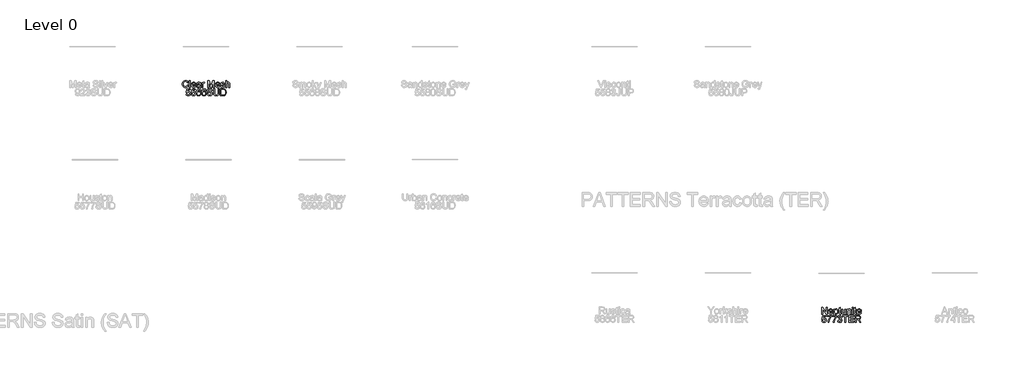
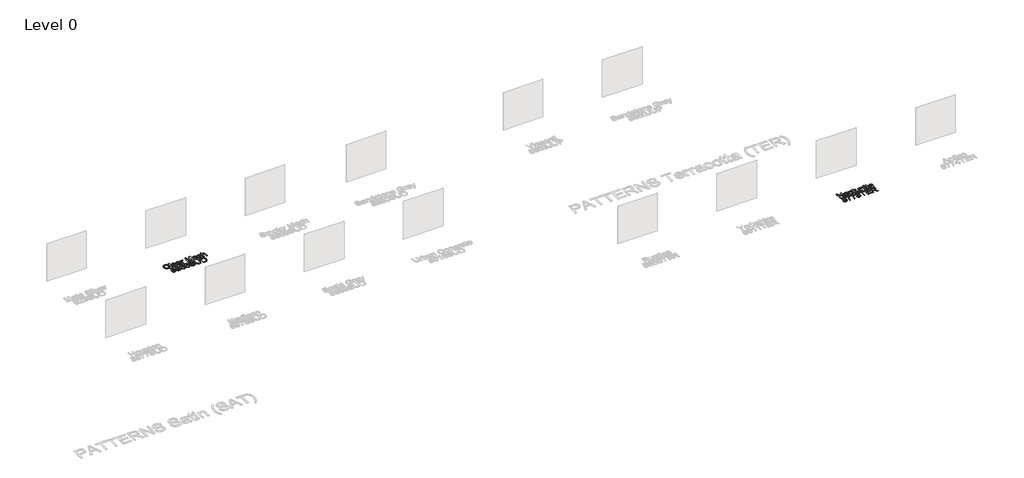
# One storey, part 18 of 29: 2 proxies.
"""IFC4 building model written with IfcOpenShell, lengths in millimetres."""

from ifc_helpers import new_model, si_unit, origin, origin_with_axes, place, context, project, spatial, polyline, outline, extrude, element, save

model = new_model("IFC4")

# Units and contexts
model_context = context("Model", 3, world=origin())
ifc_project = project(units=[si_unit("LENGTHUNIT", "METRE", prefix="MILLI")], contexts=[model_context])

# Site, building, storey
site = spatial("IfcSite", under=ifc_project)
building = spatial("IfcBuilding", under=site)
storey = spatial("IfcBuildingStorey", under=building, Name="Level 0", Elevation=0.0)

# Proxies
placement = place(None, origin())
element("IfcBuildingElementProxy", 1, Name="300mm Arial", ObjectType="300mm Arial", at=placement, inside=storey, context=model_context, shape_type="SweptSolid", body=[
    extrude(outline(polyline([(-272.3592807, -11905.733257), (-234.6881644, -11915.4453417), (-242.1423734, -11938.872527), (-252.0705887, -11959.3428607), (-264.4728105, -11976.856343), (-279.3490386, -11991.4129737), (-296.3635809, -12002.856403), (-315.180745, -12011.0302811), (-335.8005308, -12015.9346079), (-358.2229384, -12017.5693835), (-401.9181224, -12012.6213707), (-436.6185916, -11997.7773322), (-463.2164598, -11973.5523028), (-482.603841, -11940.4613173), (-494.4404442, -11901.5577963), (-498.3859786, -11859.8951604), (-493.9254094, -11815.9516561), (-480.5437018, -11778.0046283), (-458.9398316, -11747.2588905), (-429.8127747, -11724.9192564), (-395.2686553, -11711.3168196), (-357.413598, -11706.782674), (-316.109647, -11712.6503918), (-298.1409108, -11719.9850391), (-281.9610008, -11730.2535453), (-267.8366315, -11743.1845974), (-256.0345172, -11758.5068825), (-239.397054, -11796.3251516), (-277.0681703, -11805.3014723), (-290.1279811, -11777.8298843), (-307.9702579, -11758.9851291), (-330.8157298, -11748.086625), (-358.885126, -11744.4537903), (-391.2403475, -11748.4820981), (-417.8198216, -11760.5670217), (-437.988952, -11779.439368), (-451.1131422, -11803.8299443), (-458.3144322, -11831.4026999), (-460.7148623, -11859.821584), (-457.8729739, -11894.6232207), (-449.3473086, -11924.7159679), (-434.8159698, -11948.9501944), (-413.9570607, -11966.1762688), (-388.9502821, -11976.4677676), (-361.9753348, -11979.8982672), (-330.5306212, -11975.2261659), (-304.3282261, -11961.2098619), (-284.5453718, -11937.996508), (-272.3592807, -11905.733257)])), origin_with_axes(), (0.0, 0.0, 1.0), 10.0),
    extrude(outline(polyline([(-187.599269, -12012.860494), (-187.599269, -11711.4915635), (-149.9281527, -11711.4915635), (-149.9281527, -12012.860494), (-187.599269, -12012.860494)])), origin_with_axes(), (0.0, 0.0, 1.0), 10.0),
    extrude(outline(polyline([(61.5304181, -11946.9360404), (98.4657704, -11951.64493), (85.1576392, -11979.4752029), (63.9216511, -12000.2789297), (35.2360525, -12013.2467701), (-0.4209099, -12017.5693835), (-23.7952122, -12015.7046817), (-44.6219316, -12010.1105761), (-62.9010683, -12000.7870668), (-78.6326221, -11987.7341537), (-91.2831642, -11971.3151204), (-100.3192657, -11951.8932503), (-105.7409266, -11929.4685435), (-107.5481469, -11904.0409998), (-105.7225325, -11877.7512327), (-100.2456893, -11854.5792656), (-91.1176173, -11834.5250983), (-78.3383165, -11817.5887309), (-62.6481494, -11804.133447), (-44.7874785, -11794.5225298), (-24.7563039, -11788.7559796), (-2.5546255, -11786.8337961), (18.9319823, -11788.751381), (38.3630494, -11794.5041357), (55.7385759, -11804.0920602), (71.0585618, -11817.5151545), (83.5642503, -11834.4147337), (92.496885, -11854.4321128), (97.8564658, -11877.5672917), (99.6429928, -11903.8202706), (99.4222636, -11913.9738137), (-69.8770306, -11913.9738137), (-63.3563222, -11942.1719686), (-48.2087811, -11962.902119), (-26.3473935, -11975.6492302), (0.3148541, -11979.8982672), (20.3644228, -11977.9300985), (37.2502064, -11972.0255925), (50.9722048, -11961.8168672), (61.5304181, -11946.9360404)]), holes=[polyline([(-69.8770306, -11876.3026974), (61.9718765, -11876.3026974), (56.8767108, -11856.4002814), (46.8887147, -11842.1632482), (24.9261596, -11828.9194964), (-2.7017783, -11824.5049125), (-28.094833, -11828.0273826), (-49.0916979, -11838.5947929), (-63.687416, -11855.0667092), (-69.8770306, -11876.3026974)])]), origin_with_axes(), (0.0, 0.0, 1.0), 10.0),
    extrude(outline(polyline([(278.5807952, -11984.6071568), (260.5821686, -12000.0398064), (242.0501131, -12010.1381672), (222.5615644, -12015.7115794), (201.6934583, -12017.5693835), (170.2119565, -12013.0996173), (146.9894056, -11999.6903186), (132.6695989, -11979.3280501), (127.89633, -11953.9993748), (129.6989518, -11938.3827841), (135.1068171, -11924.2009331), (143.4485414, -11912.0608273), (154.0527399, -11902.5694718), (180.4298789, -11890.2086368), (213.0242237, -11884.5432541), (251.5414686, -11878.5835657), (278.360066, -11871.5938078), (278.5807952, -11863.2060983), (275.9872272, -11846.3938912), (268.206523, -11835.3942195), (250.8057046, -11827.2272392), (226.5622811, -11824.5049125), (204.1214794, -11826.3167313), (188.4497064, -11831.7521878), (177.7627345, -11841.8045633), (170.2763359, -11857.4671392), (132.6052196, -11852.7582497), (139.144322, -11832.156858), (148.9023919, -11815.9700502), (162.7899373, -11803.590821), (181.7174659, -11794.4121652), (204.8664405, -11788.7283884), (231.4183235, -11786.8337961), (256.8849546, -11788.5076592), (277.0724791, -11793.5292485), (292.2935966, -11801.0800264), (302.8610069, -11810.3414556), (309.8691589, -11821.7917827), (314.4125016, -11835.9092543), (316.2519115, -11868.8714811), (316.2519115, -11915.7396473), (318.1648979, -11981.1858542), (325.6696906, -12012.860494), (287.9985743, -12012.860494), (278.5807952, -11984.6071568)]), holes=[polyline([(278.5807952, -11909.2649241), (217.8066896, -11920.8164188), (185.3962859, -11926.9232599), (170.7177943, -11936.8560738), (165.5674463, -11951.3506244), (168.3725465, -11962.5526311), (176.7878472, -11971.7312869), (190.6294072, -11977.8565221), (209.7132857, -11979.8982672), (229.9467955, -11977.64499), (247.8258604, -11970.8851583), (262.3204111, -11960.9247533), (272.4003777, -11949.069756), (276.870144, -11936.8560738), (278.360066, -11919.933502), (278.5807952, -11909.2649241)])]), origin_with_axes(), (0.0, 0.0, 1.0), 10.0),
    extrude(outline(polyline([(368.0496965, -12012.860494), (368.0496965, -11791.5426857), (401.0119232, -11791.5426857), (401.0119232, -11824.2841833), (413.1888173, -11805.3014723), (424.4092181, -11794.1178596), (435.6664072, -11788.654812), (447.9536658, -11786.8337961), (466.7156476, -11789.7400639), (485.7719349, -11798.4588672), (473.1903707, -11832.2304343), (459.9466189, -11826.4362929), (446.702867, -11824.5049125), (435.454875, -11826.3627165), (425.4024995, -11831.9361288), (417.2815045, -11840.8020848), (411.8276539, -11852.5375205), (407.2475231, -11873.5803706), (405.7208128, -11896.5362071), (405.7208128, -12012.860494), (368.0496965, -12012.860494)])), origin_with_axes(), (0.0, 0.0, 1.0), 10.0),
    extrude(outline(polyline([(631.7475106, -12012.860494), (631.7475106, -11711.4915635), (696.5683182, -11711.4915635), (758.2253406, -11923.9066275), (770.659752, -11968.2731962), (784.124233, -11920.2278076), (844.7511858, -11711.4915635), (909.5719934, -11711.4915635), (909.5719934, -12012.860494), (871.9008771, -12012.860494), (871.9008771, -11749.1626798), (796.1907625, -12012.860494), (745.1287415, -12012.860494), (669.4186269, -11749.1626798), (669.4186269, -12012.860494), (631.7475106, -12012.860494)])), origin_with_axes(), (0.0, 0.0, 1.0), 10.0),
    extrude(outline(polyline([(1125.7394537, -11946.9360404), (1162.6748061, -11951.64493), (1149.3666749, -11979.4752029), (1128.1306867, -12000.2789297), (1099.4450881, -12013.2467701), (1063.7881257, -12017.5693835), (1040.4138235, -12015.7046817), (1019.587104, -12010.1105761), (1001.3079674, -12000.7870668), (985.5764136, -11987.7341537), (972.9258715, -11971.3151204), (963.88977, -11951.8932503), (958.4681091, -11929.4685435), (956.6608888, -11904.0409998), (958.4865032, -11877.7512327), (963.9633464, -11854.5792656), (973.0914184, -11834.5250983), (985.8707192, -11817.5887309), (1001.5608863, -11804.133447), (1019.4215571, -11794.5225298), (1039.4527318, -11788.7559796), (1061.6544102, -11786.8337961), (1083.141018, -11788.751381), (1102.5720851, -11794.5041357), (1119.9476116, -11804.0920602), (1135.2675974, -11817.5151545), (1147.773286, -11834.4147337), (1156.7059207, -11854.4321128), (1162.0655015, -11877.5672917), (1163.8520284, -11903.8202706), (1163.6312992, -11913.9738137), (994.3320051, -11913.9738137), (1000.8527134, -11942.1719686), (1016.0002546, -11962.902119), (1037.8616421, -11975.6492302), (1064.5238897, -11979.8982672), (1084.5734585, -11977.9300985), (1101.4592421, -11972.0255925), (1115.1812405, -11961.8168672), (1125.7394537, -11946.9360404)]), holes=[polyline([(994.3320051, -11876.3026974), (1126.1809121, -11876.3026974), (1121.0857465, -11856.4002814), (1111.0977503, -11842.1632482), (1089.1351952, -11828.9194964), (1061.5072574, -11824.5049125), (1036.1142027, -11828.0273826), (1015.1173378, -11838.5947929), (1000.5216196, -11855.0667092), (994.3320051, -11876.3026974)])]), origin_with_axes(), (0.0, 0.0, 1.0), 10.0),
    extrude(outline(polyline([(1187.3964761, -11946.9360404), (1225.0675924, -11942.2271509), (1231.0088867, -11958.3403823), (1242.505199, -11970.1861825), (1259.6301059, -11977.470246), (1282.4571837, -11979.8982672), (1305.00835, -11977.6725811), (1320.864064, -11970.9955229), (1330.2450549, -11961.3202265), (1333.3720518, -11950.0998256), (1330.2266608, -11940.4981055), (1320.7904876, -11933.1772538), (1282.0157253, -11922.4350996), (1225.2883216, -11904.0042116), (1210.9317268, -11894.7427824), (1200.5298634, -11882.4831149), (1194.2114901, -11868.0069584), (1192.1053657, -11852.0960621), (1193.7976228, -11837.5003439), (1198.8743944, -11824.0266659), (1206.8758278, -11812.2084568), (1217.3420705, -11802.5791455), (1241.2911884, -11791.4323211), (1273.7015922, -11786.8337961), (1298.2209272, -11788.6824032), (1319.5396888, -11794.2282242), (1336.6829898, -11802.9286334), (1348.6759428, -11814.2410048), (1356.6221939, -11829.0022698), (1361.625389, -11848.0493601), (1323.9542727, -11852.7582497), (1319.1993979, -11840.9032524), (1309.7908159, -11831.972917), (1295.6365562, -11826.3719136), (1276.6446482, -11824.5049125), (1255.0131868, -11826.2891401), (1240.5922126, -11831.6418232), (1232.4804146, -11839.3673451), (1229.776482, -11848.2700893), (1234.2646423, -11859.2329728), (1248.3177345, -11867.5471059), (1280.7649265, -11875.5669334), (1336.0575904, -11893.2988455), (1350.6625056, -11901.7785255), (1361.7357536, -11913.3852025), (1368.7163145, -11928.1556646), (1371.0431681, -11946.1267001), (1368.3116443, -11964.7047408), (1360.1170729, -11982.1791356), (1346.7721535, -11997.1795239), (1328.5895859, -12008.3355454), (1306.6270308, -12015.260924), (1281.9421489, -12017.5693835), (1243.9583329, -12013.1180114), (1216.2384245, -11999.763895), (1197.7339602, -11977.654187), (1187.3964761, -11946.9360404)])), origin_with_axes(), (0.0, 0.0, 1.0), 10.0),
    extrude(outline(polyline([(1413.423174, -12012.860494), (1413.423174, -11711.4915635), (1451.0942903, -11711.4915635), (1451.0942903, -11822.2976205), (1464.9312518, -11806.7821973), (1480.4696676, -11795.6997522), (1497.7095376, -11789.0502852), (1516.6508618, -11786.8337961), (1539.4043632, -11789.2526203), (1558.9572913, -11796.5090926), (1574.3531528, -11808.0329961), (1584.6354545, -11823.2541137), (1590.4295959, -11844.1682051), (1592.3609764, -11872.7710302), (1592.3609764, -12012.860494), (1554.6898601, -12012.860494), (1554.6898601, -11876.6705794), (1551.6916219, -11853.0893435), (1542.6969071, -11836.9393239), (1528.2023565, -11827.6135153), (1508.7046107, -11824.5049125), (1492.7845174, -11826.6018398), (1477.8393113, -11832.8926219), (1465.4600822, -11842.7702535), (1457.2379196, -11855.6277292), (1452.6301976, -11872.7158479), (1451.0942903, -11895.2854083), (1451.0942903, -12012.860494), (1413.423174, -12012.860494)])), origin_with_axes(), (0.0, 0.0, 1.0), 10.0),
    extrude(outline(polyline([(-333.5748447, -12298.7338254), (-295.9037284, -12294.0249358), (-288.9875469, -12316.6404815), (-276.9210175, -12332.8364863), (-259.7593224, -12342.5761621), (-237.557644, -12345.8227207), (-210.5551055, -12341.3069693), (-190.3215958, -12327.7597148), (-177.6848493, -12306.7444558), (-173.4726004, -12279.8246908), (-177.4181348, -12254.4776213), (-189.254738, -12235.0902402), (-209.0743805, -12222.7845875), (-236.9690328, -12218.6827032), (-255.2435709, -12220.3197781), (-270.0416242, -12225.2310027), (-291.1948389, -12242.2271509), (-328.8659552, -12237.5182614), (-295.9037284, -12082.1249066), (-149.9281527, -12082.1249066), (-149.9281527, -12119.7960229), (-265.4430992, -12119.7960229), (-281.5563306, -12202.790201), (-254.6457627, -12186.4562404), (-226.4476077, -12181.0115869), (-208.1017925, -12182.6992456), (-191.2504978, -12187.7622215), (-175.8937238, -12196.2005148), (-162.0314704, -12208.0141254), (-150.5558514, -12222.4810848), (-142.3589807, -12238.8794248), (-137.4408583, -12257.2091452), (-135.8014841, -12277.470246), (-141.7059901, -12315.1413624), (-149.0866227, -12331.9351754), (-159.4195082, -12347.3678251), (-175.0728871, -12363.1729553), (-193.3382282, -12374.4623341), (-214.2155314, -12381.2359613), (-237.7047968, -12383.4938371), (-274.7045285, -12377.6904986), (-290.3831992, -12370.4363255), (-304.1810733, -12360.2804832), (-315.6612908, -12347.7288093), (-324.3869919, -12333.2871418), (-333.5748447, -12298.7338254)])), origin_with_axes(), (0.0, 0.0, 1.0), 10.0),
    extrude(outline(polyline([(-102.8392574, -12298.7338254), (-65.1681411, -12294.0249358), (-58.2519595, -12316.6404815), (-46.1854301, -12332.8364863), (-29.023735, -12342.5761621), (-6.8220566, -12345.8227207), (20.1804818, -12341.3069693), (40.4139916, -12327.7597148), (53.0507381, -12306.7444558), (57.2629869, -12279.8246908), (53.3174525, -12254.4776213), (41.4808494, -12235.0902402), (21.6612069, -12222.7845875), (-6.2334454, -12218.6827032), (-24.5079835, -12220.3197781), (-39.3060368, -12225.2310027), (-60.4592515, -12242.2271509), (-98.1303678, -12237.5182614), (-65.1681411, -12082.1249066), (80.8074346, -12082.1249066), (80.8074346, -12119.7960229), (-34.7075119, -12119.7960229), (-50.8207432, -12202.790201), (-23.9101753, -12186.4562404), (4.2879796, -12181.0115869), (22.6337949, -12182.6992456), (39.4850895, -12187.7622215), (54.8418636, -12196.2005148), (68.704117, -12208.0141254), (80.179736, -12222.4810848), (88.3766067, -12238.8794248), (93.2947291, -12257.2091452), (94.9341033, -12277.470246), (89.0295972, -12315.1413624), (81.6489647, -12331.9351754), (71.3160792, -12347.3678251), (55.6627003, -12363.1729553), (37.3973592, -12374.4623341), (16.520056, -12381.2359613), (-6.9692094, -12383.4938371), (-43.9689411, -12377.6904986), (-59.6476119, -12370.4363255), (-73.4454859, -12360.2804832), (-84.9257035, -12347.7288093), (-93.6514045, -12333.2871418), (-102.8392574, -12298.7338254)])), origin_with_axes(), (0.0, 0.0, 1.0), 10.0),
    extrude(outline(polyline([(320.9608011, -12157.4671392), (283.2896848, -12162.1760288), (277.2196319, -12143.5060175), (269.0158634, -12130.7589064), (251.9277447, -12119.0050766), (231.2711707, -12115.0871334), (213.7599877, -12117.3680017), (197.2788743, -12124.2106069), (183.1246145, -12138.622384), (171.5639228, -12158.4604206), (163.7556275, -12186.5206198), (160.8585568, -12225.5988847), (175.9693097, -12207.9681401), (194.078301, -12195.5429257), (214.1738549, -12188.1760888), (235.2442962, -12185.7204764), (253.3440904, -12187.3989381), (270.045933, -12192.4343229), (285.349824, -12200.8266309), (299.2557634, -12212.5758621), (310.8118565, -12226.9830407), (319.0662088, -12243.349191), (324.0188202, -12261.6743129), (325.6696906, -12281.9584064), (322.5610878, -12308.9333537), (313.2352792, -12333.9401323), (298.4648171, -12355.1485293), (279.0222536, -12370.7283318), (255.7905056, -12380.3024607), (229.6524899, -12383.4938371), (207.1955933, -12381.3785156), (186.9137991, -12375.0325512), (168.8071071, -12364.4559438), (152.8755175, -12349.6486935), (139.8869838, -12329.9854009), (130.6094597, -12304.8406665), (125.0429453, -12274.2144904), (123.1874405, -12238.1068726), (125.2475797, -12197.6260575), (131.4279972, -12163.0773396), (141.728693, -12134.4607189), (156.1496672, -12111.7761954), (171.7800535, -12096.7436174), (189.9028403, -12086.0060617), (210.5180276, -12079.5635282), (233.6256154, -12077.4160171), (266.6798127, -12082.7319119), (293.1489223, -12098.6795964), (311.6901748, -12124.0082718), (320.9608011, -12157.4671392)]), holes=[polyline([(160.8585568, -12281.3697952), (163.0382576, -12298.0624407), (169.5773601, -12314.0009282), (179.7309031, -12327.7045325), (192.7539258, -12337.6925287), (208.471684, -12343.7901727), (226.7094339, -12345.8227207), (251.5690597, -12341.6104719), (271.1127907, -12328.9737254), (283.7771284, -12309.1080976), (287.9985743, -12283.2092052), (283.8323107, -12258.3495793), (271.3335199, -12239.3944595), (251.4586951, -12227.3923095), (225.1643295, -12223.3915928), (200.3414919, -12227.3923095), (179.5837503, -12239.3944595), (165.5398552, -12257.8897269), (160.8585568, -12281.3697952)])]), origin_with_axes(), (0.0, 0.0, 1.0), 10.0),
    extrude(outline(polyline([(551.6963885, -12157.4671392), (514.0252722, -12162.1760288), (507.9552192, -12143.5060175), (499.7514507, -12130.7589064), (482.6633321, -12119.0050766), (462.006758, -12115.0871334), (444.4955751, -12117.3680017), (428.0144617, -12124.2106069), (413.8602019, -12138.622384), (402.2995102, -12158.4604206), (394.4912149, -12186.5206198), (391.5941442, -12225.5988847), (406.7048971, -12207.9681401), (424.8138883, -12195.5429257), (444.9094423, -12188.1760888), (465.9798836, -12185.7204764), (484.0796777, -12187.3989381), (500.7815203, -12192.4343229), (516.0854113, -12200.8266309), (529.9913507, -12212.5758621), (541.5474439, -12226.9830407), (549.8017962, -12243.349191), (554.7544075, -12261.6743129), (556.405278, -12281.9584064), (553.2966751, -12308.9333537), (543.9708666, -12333.9401323), (529.2004045, -12355.1485293), (509.757841, -12370.7283318), (486.526093, -12380.3024607), (460.3880773, -12383.4938371), (437.9311807, -12381.3785156), (417.6493865, -12375.0325512), (399.5426945, -12364.4559438), (383.6111049, -12349.6486935), (370.6225712, -12329.9854009), (361.3450471, -12304.8406665), (355.7785327, -12274.2144904), (353.9230279, -12238.1068726), (355.983167, -12197.6260575), (362.1635845, -12163.0773396), (372.4642804, -12134.4607189), (386.8852546, -12111.7761954), (402.5156409, -12096.7436174), (420.6384277, -12086.0060617), (441.253615, -12079.5635282), (464.3612028, -12077.4160171), (497.4154001, -12082.7319119), (523.8845096, -12098.6795964), (542.4257622, -12124.0082718), (551.6963885, -12157.4671392)]), holes=[polyline([(391.5941442, -12281.3697952), (393.773845, -12298.0624407), (400.3129474, -12314.0009282), (410.4664905, -12327.7045325), (423.4895131, -12337.6925287), (439.2072714, -12343.7901727), (457.4450213, -12345.8227207), (482.3046471, -12341.6104719), (501.8483781, -12328.9737254), (514.5127158, -12309.1080976), (518.7341617, -12283.2092052), (514.5678981, -12258.3495793), (502.0691073, -12239.3944595), (482.1942825, -12227.3923095), (455.8999169, -12223.3915928), (431.0770793, -12227.3923095), (410.3193377, -12239.3944595), (396.2754425, -12257.8897269), (391.5941442, -12281.3697952)])]), origin_with_axes(), (0.0, 0.0, 1.0), 10.0),
    extrude(outline(polyline([(589.3675048, -12275.1893777), (627.0386211, -12275.1893777), (631.3612345, -12296.0942721), (639.1787269, -12312.8972822), (651.3740151, -12326.2330045), (668.8300157, -12336.7360355), (690.1671714, -12343.5510494), (714.0059247, -12345.8227207), (734.9935926, -12344.1028724), (753.3692982, -12338.9433274), (768.259322, -12330.7763471), (778.7899441, -12320.0341929), (785.0531351, -12307.700949), (787.1408654, -12294.7606998), (785.5773669, -12282.1515444), (780.8868715, -12271.2530403), (771.3587278, -12261.9548229), (755.2822846, -12254.1465276), (700.4310791, -12239.7623415), (664.4246288, -12230.2433949), (641.3860189, -12221.1843008), (622.6332342, -12208.510766), (609.3434971, -12193.1516928), (601.4248372, -12175.4381747), (598.7852838, -12155.7013056), (602.0502366, -12133.637583), (611.8450947, -12113.0637824), (627.9123408, -12095.6261758), (649.9944576, -12082.9710352), (676.5003553, -12075.2731044), (705.8389444, -12072.7071275), (737.6239488, -12075.3926661), (765.4358277, -12083.4492818), (788.2812996, -12096.7114277), (805.1670831, -12115.013557), (815.8540551, -12137.2152354), (820.1030921, -12162.1760288), (782.4319758, -12162.1760288), (775.5157943, -12139.6984389), (761.0948201, -12123.4748429), (738.5620479, -12113.6523936), (707.3104724, -12110.3782438), (675.3231329, -12113.6156054), (653.3789719, -12123.3276901), (640.6870431, -12137.6199056), (636.4564002, -12154.5976597), (639.4546384, -12169.0738162), (648.4493532, -12180.7172813), (669.7129325, -12191.1283418), (709.9592228, -12201.7601314), (751.4931, -12211.8584922), (776.6194403, -12220.669266), (798.0945518, -12234.3360821), (813.076546, -12251.2034716), (821.8781228, -12271.0874934), (824.8119817, -12293.8042066), (821.4366644, -12317.0267576), (811.3107125, -12338.869751), (794.8479932, -12357.668521), (772.4623738, -12371.7584014), (745.5426088, -12380.5599781), (715.4774527, -12383.4938371), (678.5696915, -12380.3300519), (648.1918358, -12370.8386964), (623.9943976, -12354.9829824), (605.627889, -12332.7261217), (593.837271, -12305.6132187), (589.3675048, -12275.1893777)])), origin_with_axes(), (0.0, 0.0, 1.0), 10.0),
    extrude(outline(polyline([(1079.0920167, -12077.4160171), (1116.7631331, -12077.4160171), (1116.7631331, -12251.277048), (1114.2063532, -12291.9923878), (1106.5360136, -12323.3451308), (1092.2070099, -12347.533372), (1069.6742377, -12366.7552063), (1038.8825147, -12379.3091794), (999.7766586, -12383.4938371), (961.5261281, -12379.8518053), (930.9459373, -12368.92571), (908.026889, -12351.0926303), (892.7597862, -12326.7296452), (884.1789387, -12294.052527), (881.3186561, -12251.277048), (881.3186561, -12077.4160171), (918.9897724, -12077.4160171), (918.9897724, -12249.9526728), (920.8475765, -12283.8070134), (926.4209887, -12307.3790523), (936.5193495, -12323.7038158), (951.9519992, -12335.8163305), (972.0751444, -12343.3211232), (996.2449914, -12345.8227207), (1034.5599012, -12340.8747079), (1048.9027005, -12334.6896919), (1060.0357294, -12326.0306694), (1068.3728551, -12313.8537754), (1074.3279449, -12297.1151446), (1079.0920167, -12249.9526728), (1079.0920167, -12077.4160171)])), origin_with_axes(), (0.0, 0.0, 1.0), 10.0),
    extrude(outline(polyline([(1182.6875866, -12378.7849475), (1182.6875866, -12077.4160171), (1286.6510384, -12077.4160171), (1340.4353861, -12081.7570246), (1364.4580804, -12090.12634), (1384.7283783, -12103.3149095), (1405.5688934, -12126.270746), (1420.4129319, -12154.8183889), (1429.2972821, -12188.406015), (1432.2587321, -12226.4818015), (1430.2537752, -12258.8278259), (1424.2389046, -12287.2926953), (1415.0786429, -12311.5269217), (1403.6375129, -12331.1810173), (1390.4673375, -12346.6964405), (1376.1199397, -12358.5146496), (1359.6480233, -12367.2794381), (1340.1042923, -12373.6345996), (1291.6542336, -12378.7849475), (1182.6875866, -12378.7849475)]), holes=[polyline([(1220.3587029, -12341.1138312), (1287.0189204, -12341.1138312), (1314.591676, -12339.7526678), (1335.5057674, -12335.6691777), (1351.287905, -12329.1024841), (1363.464799, -12320.2917103), (1376.552201, -12303.9853408), (1386.3838473, -12282.8781114), (1392.5366737, -12256.8780514), (1394.5876158, -12225.8931903), (1390.568505, -12184.8375597), (1378.5111726, -12154.5240833), (1360.696487, -12133.7019623), (1339.4053165, -12121.1203981), (1317.737067, -12116.5954496), (1285.9888508, -12115.0871334), (1220.3587029, -12115.0871334), (1220.3587029, -12341.1138312)])]), origin_with_axes(), (0.0, 0.0, 1.0), 10.0),
])
element("IfcBuildingElementProxy", 2, Name="300mm Arial", ObjectType="300mm Arial", at=placement, inside=storey, context=model_context, shape_type="SweptSolid", body=[
    extrude(outline(polyline([(27689.969603, -22018.860494), (27689.969603, -21717.4915635), (27730.2894696, -21717.4915635), (27887.7429636, -21956.2469784), (27887.7429636, -21717.4915635), (27925.4140799, -21717.4915635), (27925.4140799, -22018.860494), (27885.0942132, -22018.860494), (27727.6407193, -21780.0315027), (27727.6407193, -22018.860494), (27689.969603, -22018.860494)])), origin_with_axes(), (0.0, 0.0, 1.0), 10.0),
    extrude(outline(polyline([(28141.5815402, -21952.9360404), (28178.5168926, -21957.64493), (28165.2087614, -21985.4752029), (28143.9727732, -22006.2789297), (28115.2871746, -22019.2467701), (28079.6302123, -22023.5693835), (28056.25591, -22021.7046817), (28035.4291905, -22016.1105761), (28017.1500539, -22006.7870668), (28001.4185001, -21993.7341537), (27988.767958, -21977.3151204), (27979.7318565, -21957.8932503), (27974.3101956, -21935.4685435), (27972.5029753, -21910.0409998), (27974.3285897, -21883.7512327), (27979.8054329, -21860.5792656), (27988.9335049, -21840.5250983), (28001.7128057, -21823.5887309), (28017.4029728, -21810.133447), (28035.2636436, -21800.5225298), (28055.2948183, -21794.7559796), (28077.4964967, -21792.8337961), (28098.9831045, -21794.751381), (28118.4141716, -21800.5041357), (28135.7896981, -21810.0920602), (28151.1096839, -21823.5151545), (28163.6153725, -21840.4147337), (28172.5480072, -21860.4321128), (28177.907588, -21883.5672917), (28179.6941149, -21909.8202706), (28179.4733857, -21919.9738137), (28010.1740916, -21919.9738137), (28016.6947999, -21948.1719686), (28031.8423411, -21968.902119), (28053.7037286, -21981.6492302), (28080.3659762, -21985.8982672), (28100.415545, -21983.9300985), (28117.3013286, -21978.0255925), (28131.023327, -21967.8168672), (28141.5815402, -21952.9360404)]), holes=[polyline([(28010.1740916, -21882.3026974), (28142.0229986, -21882.3026974), (28136.927833, -21862.4002814), (28126.9398368, -21848.1632482), (28104.9772817, -21834.9194964), (28077.3493439, -21830.5049125), (28051.9562892, -21834.0273826), (28030.9594243, -21844.5947929), (28016.3637061, -21861.0667092), (28010.1740916, -21882.3026974)])]), origin_with_axes(), (0.0, 0.0, 1.0), 10.0),
    extrude(outline(polyline([(28217.3652312, -22103.6205057), (28217.3652312, -21797.5426857), (28255.0363476, -21797.5426857), (28255.0363476, -21834.478038), (28267.3236062, -21816.2586822), (28281.0823928, -21803.2448566), (28297.1220478, -21795.4365613), (28316.2519115, -21792.8337961), (28341.7277397, -21796.4758279), (28364.0029945, -21807.4019232), (28382.1395769, -21824.9498943), (28395.1993877, -21848.4575538), (28403.0904565, -21876.2142504), (28405.7208128, -21906.5093327), (28402.7501657, -21938.7265984), (28393.8382243, -21967.5409557), (28379.2700973, -21991.4900735), (28359.3308932, -22009.1116211), (28336.1083422, -22019.9549429), (28311.6901748, -22023.5693835), (28294.3721299, -22021.1505594), (28278.911889, -22013.894087), (28265.6773343, -22002.9404006), (28255.0363476, -21989.4299344), (28255.0363476, -22103.6205057), (28217.3652312, -22103.6205057)]), holes=[polyline([(28255.0363476, -21909.9674234), (28259.1106406, -21943.7389906), (28271.3335199, -21967.3570147), (28289.3689348, -21981.2629541), (28310.8808344, -21985.8982672), (28332.742222, -21981.0974072), (28351.2374893, -21966.6948271), (28363.8466447, -21942.2122803), (28368.0496965, -21907.1715202), (28363.9478122, -21873.5838941), (28351.6421595, -21849.6347762), (28333.6343358, -21835.2873784), (28312.4259388, -21830.5049125), (28291.1347683, -21835.590881), (28272.4371659, -21850.8487868), (28259.3865521, -21875.8003831), (28255.0363476, -21909.9674234)])]), origin_with_axes(), (0.0, 0.0, 1.0), 10.0),
    extrude(outline(polyline([(28528.1519408, -21987.4433716), (28532.8608303, -22019.96414), (28504.6810695, -22023.5693835), (28486.5996694, -22022.005885), (28473.1167943, -22017.3153896), (28463.5886506, -22010.0865084), (28457.3714449, -22000.9078526), (28453.9501423, -21985.1441091), (28452.8097082, -21958.1599648), (28452.8097082, -21835.213802), (28424.5563709, -21835.213802), (28424.5563709, -21797.5426857), (28452.8097082, -21797.5426857), (28452.8097082, -21743.758338), (28490.4808245, -21721.6118419), (28490.4808245, -21797.5426857), (28528.1519408, -21797.5426857), (28528.1519408, -21835.213802), (28490.4808245, -21835.213802), (28490.4808245, -21957.0563188), (28492.4673872, -21976.4804881), (28498.9053222, -21983.3598814), (28511.7444038, -21985.8982672), (28528.1519408, -21987.4433716)])), origin_with_axes(), (0.0, 0.0, 1.0), 10.0),
    extrude(outline(polyline([(28707.0897432, -22018.860494), (28707.0897432, -21980.8214957), (28693.4597153, -21999.5236966), (28677.5856072, -22012.8824116), (28659.4674189, -22020.8976405), (28639.1051505, -22023.5693835), (28620.757036, -22021.6931853), (28603.6781144, -22016.0645908), (28589.3491107, -22007.6033049), (28579.2507499, -21997.2290327), (28568.030349, -21969.4907302), (28565.8230571, -21934.4683643), (28565.8230571, -21797.5426857), (28603.4941734, -21797.5426857), (28603.4941734, -21916.7364521), (28605.7750418, -21955.1433324), (28611.2656805, -21967.9548229), (28620.6742626, -21977.6944987), (28633.3753884, -21983.8473251), (28648.7436588, -21985.8982672), (28664.9948459, -21983.8013398), (28680.1975694, -21977.5105577), (28692.7331484, -21967.605335), (28700.9829021, -21954.6650858), (28705.5630329, -21936.9423707), (28707.0897432, -21912.6897502), (28707.0897432, -21797.5426857), (28744.7608595, -21797.5426857), (28744.7608595, -22018.860494), (28707.0897432, -22018.860494)])), origin_with_axes(), (0.0, 0.0, 1.0), 10.0),
    extrude(outline(polyline([(28796.5586445, -22018.860494), (28796.5586445, -21797.5426857), (28834.2297608, -21797.5426857), (28834.2297608, -21828.4447733), (28847.3171627, -21812.8649708), (28863.034921, -21801.7365404), (28881.3830355, -21795.0594822), (28902.3615063, -21792.8337961), (28920.93035, -21794.6272209), (28937.9356952, -21800.0074951), (28952.1175461, -21808.303234), (28962.2159069, -21818.8430532), (28973.5098841, -21846.5445674), (28975.4964469, -21882.964885), (28975.4964469, -22018.860494), (28937.8253306, -22018.860494), (28937.8253306, -21888.0416565), (28933.4843231, -21854.7115477), (28927.4786495, -21844.7879309), (28918.1436439, -21837.0900002), (28906.178282, -21832.1511844), (28892.2815396, -21830.5049125), (28870.2178169, -21834.2021265), (28851.4098499, -21845.2937687), (28843.8935609, -21854.3482643), (28838.5247831, -21866.7228949), (28834.2297608, -21901.4325611), (28834.2297608, -22018.860494), (28796.5586445, -22018.860494)])), origin_with_axes(), (0.0, 0.0, 1.0), 10.0),
    extrude(outline(polyline([(29027.2942318, -21755.1626798), (29027.2942318, -21717.4915635), (29064.9653481, -21717.4915635), (29064.9653481, -21755.1626798), (29027.2942318, -21755.1626798)])), origin_with_axes(), (0.0, 0.0, 1.0), 10.0),
    extrude(outline(polyline([(29027.2942318, -22018.860494), (29027.2942318, -21797.5426857), (29064.9653481, -21797.5426857), (29064.9653481, -22018.860494), (29027.2942318, -22018.860494)])), origin_with_axes(), (0.0, 0.0, 1.0), 10.0),
    extrude(outline(polyline([(29201.5231447, -21987.4433716), (29206.2320343, -22019.96414), (29178.0522734, -22023.5693835), (29159.9708734, -22022.005885), (29146.4879983, -22017.3153896), (29136.9598546, -22010.0865084), (29130.7426489, -22000.9078526), (29127.3213463, -21985.1441091), (29126.1809121, -21958.1599648), (29126.1809121, -21835.213802), (29097.9275749, -21835.213802), (29097.9275749, -21797.5426857), (29126.1809121, -21797.5426857), (29126.1809121, -21743.758338), (29163.8520284, -21721.6118419), (29163.8520284, -21797.5426857), (29201.5231447, -21797.5426857), (29201.5231447, -21835.213802), (29163.8520284, -21835.213802), (29163.8520284, -21957.0563188), (29165.8385912, -21976.4804881), (29172.2765261, -21983.3598814), (29185.1156078, -21985.8982672), (29201.5231447, -21987.4433716)])), origin_with_axes(), (0.0, 0.0, 1.0), 10.0),
    extrude(outline(polyline([(29394.1461574, -21952.9360404), (29431.0815097, -21957.64493), (29417.7733786, -21985.4752029), (29396.5373904, -22006.2789297), (29367.8517918, -22019.2467701), (29332.1948294, -22023.5693835), (29308.8205272, -22021.7046817), (29287.9938077, -22016.1105761), (29269.7146711, -22006.7870668), (29253.9831173, -21993.7341537), (29241.3325751, -21977.3151204), (29232.2964736, -21957.8932503), (29226.8748127, -21935.4685435), (29225.0675924, -21910.0409998), (29226.8932068, -21883.7512327), (29232.37005, -21860.5792656), (29241.498122, -21840.5250983), (29254.2774229, -21823.5887309), (29269.9675899, -21810.133447), (29287.8282608, -21800.5225298), (29307.8594354, -21794.7559796), (29330.0611139, -21792.8337961), (29351.5477216, -21794.751381), (29370.9787888, -21800.5041357), (29388.3543153, -21810.0920602), (29403.6743011, -21823.5151545), (29416.1799897, -21840.4147337), (29425.1126244, -21860.4321128), (29430.4722052, -21883.5672917), (29432.2587321, -21909.8202706), (29432.0380029, -21919.9738137), (29262.7387087, -21919.9738137), (29269.2594171, -21948.1719686), (29284.4069583, -21968.902119), (29306.2683458, -21981.6492302), (29332.9305934, -21985.8982672), (29352.9801622, -21983.9300985), (29369.8659457, -21978.0255925), (29383.5879442, -21967.8168672), (29394.1461574, -21952.9360404)]), holes=[polyline([(29262.7387087, -21882.3026974), (29394.5876158, -21882.3026974), (29389.4924502, -21862.4002814), (29379.504454, -21848.1632482), (29357.5418989, -21834.9194964), (29329.9139611, -21830.5049125), (29304.5209063, -21834.0273826), (29283.5240415, -21844.5947929), (29268.9283233, -21861.0667092), (29262.7387087, -21882.3026974)])]), origin_with_axes(), (0.0, 0.0, 1.0), 10.0),
    extrude(outline(polyline([(27689.969603, -22304.7338254), (27727.6407193, -22300.0249358), (27734.5569008, -22322.6404815), (27746.6234302, -22338.8364863), (27763.7851253, -22348.5761621), (27785.9868037, -22351.8227207), (27812.9893421, -22347.3069693), (27833.2228519, -22333.7597148), (27845.8595984, -22312.7444558), (27850.0718473, -22285.8246908), (27846.1263129, -22260.4776213), (27834.2897097, -22241.0902402), (27814.4700672, -22228.7845875), (27786.5754149, -22224.6827032), (27768.3008768, -22226.3197781), (27753.5028235, -22231.2310027), (27732.3496088, -22248.2271509), (27694.6784925, -22243.5182614), (27727.6407193, -22088.1249066), (27873.616295, -22088.1249066), (27873.616295, -22125.7960229), (27758.1013485, -22125.7960229), (27741.9881171, -22208.790201), (27768.898685, -22192.4562404), (27797.09684, -22187.0115869), (27815.4426552, -22188.6992456), (27832.2939498, -22193.7622215), (27847.6507239, -22202.2005148), (27861.5129773, -22214.0141254), (27872.9885963, -22228.4810848), (27881.185467, -22244.8794248), (27886.1035894, -22263.2091452), (27887.7429636, -22283.470246), (27881.8384575, -22321.1413624), (27874.457825, -22337.9351754), (27864.1249395, -22353.3678251), (27848.4715606, -22369.1729553), (27830.2062195, -22380.4623341), (27809.3289163, -22387.2359613), (27785.8396509, -22389.4938371), (27748.8399192, -22383.6904986), (27733.1612485, -22376.4363255), (27719.3633744, -22366.2804832), (27707.8831569, -22353.7288093), (27699.1574558, -22339.2871418), (27689.969603, -22304.7338254)])), origin_with_axes(), (0.0, 0.0, 1.0), 10.0),
    extrude(outline(polyline([(27920.7051903, -22125.7960229), (27920.7051903, -22088.1249066), (28118.4785509, -22088.1249066), (28118.4785509, -22118.5855358), (28090.2895931, -22154.2608923), (28062.3765467, -22199.6299393), (28037.7560441, -22250.5540045), (28019.4447178, -22302.8944154), (28010.4683972, -22342.0554538), (28005.465202, -22384.7849475), (27967.7940857, -22384.7849475), (27971.8683788, -22345.9550029), (27982.7668829, -22299.8042066), (28000.1952924, -22250.8850983), (28023.8593018, -22203.7502177), (28051.4872396, -22161.1402856), (28080.8074346, -22125.7960229), (27920.7051903, -22125.7960229)])), origin_with_axes(), (0.0, 0.0, 1.0), 10.0),
    extrude(outline(polyline([(28151.4407777, -22125.7960229), (28151.4407777, -22088.1249066), (28349.2141383, -22088.1249066), (28349.2141383, -22118.5855358), (28321.0251804, -22154.2608923), (28293.1121341, -22199.6299393), (28268.4916315, -22250.5540045), (28250.1803052, -22302.8944154), (28241.2039845, -22342.0554538), (28236.2007894, -22384.7849475), (28198.5296731, -22384.7849475), (28202.6039662, -22345.9550029), (28213.5024703, -22299.8042066), (28230.9308798, -22250.8850983), (28254.5948892, -22203.7502177), (28282.222827, -22161.1402856), (28311.543022, -22125.7960229), (28151.4407777, -22125.7960229)])), origin_with_axes(), (0.0, 0.0, 1.0), 10.0),
    extrude(outline(polyline([(28382.1763651, -22304.7338254), (28419.8474814, -22300.0249358), (28428.2811761, -22323.6981422), (28440.6328141, -22339.6826149), (28457.5094006, -22348.7876943), (28479.517941, -22351.8227207), (28505.3432571, -22347.6472601), (28525.2824612, -22335.1208782), (28538.0295723, -22316.4324728), (28542.2786094, -22293.7709419), (28538.0663605, -22272.2590422), (28525.429614, -22254.8122386), (28506.2997503, -22243.2515469), (28482.6081498, -22239.397983), (28456.1942225, -22243.5182614), (28460.3880773, -22205.8471451), (28466.421342, -22206.2886035), (28488.9909024, -22203.5846708), (28509.1692298, -22195.4728728), (28523.406263, -22181.7508744), (28528.1519408, -22162.2163404), (28524.7122441, -22145.9467592), (28514.3931542, -22132.7489926), (28498.6478048, -22124.0025982), (28478.9293298, -22121.0871334), (28459.1740667, -22124.0301893), (28443.0240471, -22132.8593572), (28431.2334291, -22147.574637), (28424.5563709, -22168.1760288), (28386.8852546, -22163.4671392), (28397.9768968, -22129.6403898), (28417.7137658, -22104.3852908), (28444.7163043, -22088.6583355), (28477.6049546, -22083.4160171), (28501.2873581, -22086.0003881), (28523.038381, -22093.7535011), (28541.3772985, -22105.9855775), (28554.8233854, -22122.0068384), (28563.0731392, -22140.4653175), (28565.8230571, -22160.0090485), (28563.2110949, -22178.2192072), (28555.3752084, -22194.7371088), (28542.4257622, -22208.8085951), (28524.4731208, -22219.6795081), (28548.0543567, -22229.2076518), (28565.5287515, -22245.4312477), (28576.3444821, -22267.4673793), (28579.9497257, -22294.4331295), (28578.1471039, -22313.5445992), (28572.7392386, -22331.1477526), (28563.7261297, -22347.2425899), (28551.1077773, -22361.829111), (28535.7349084, -22373.9324287), (28518.4582502, -22382.5776555), (28499.2778027, -22387.7647917), (28478.1935658, -22389.4938371), (28459.1372785, -22388.0177105), (28441.7732483, -22383.589331), (28426.1014753, -22376.2086985), (28412.1219595, -22365.875813), (28400.4003194, -22353.1976797), (28391.5021737, -22338.781304), (28385.4275222, -22322.6266859), (28382.1763651, -22304.7338254)])), origin_with_axes(), (0.0, 0.0, 1.0), 10.0),
    extrude(outline(polyline([(28702.3808537, -22384.7849475), (28702.3808537, -22121.0871334), (28603.4941734, -22121.0871334), (28603.4941734, -22083.4160171), (28838.9386503, -22083.4160171), (28838.9386503, -22121.0871334), (28740.05197, -22121.0871334), (28740.05197, -22384.7849475), (28702.3808537, -22384.7849475)])), origin_with_axes(), (0.0, 0.0, 1.0), 10.0),
    extrude(outline(polyline([(28881.3186561, -22384.7849475), (28881.3186561, -22083.4160171), (29097.9275749, -22083.4160171), (29097.9275749, -22121.0871334), (28918.9897724, -22121.0871334), (28918.9897724, -22210.5560346), (29088.5097958, -22210.5560346), (29088.5097958, -22248.2271509), (28918.9897724, -22248.2271509), (28918.9897724, -22347.1138312), (29102.6364644, -22347.1138312), (29102.6364644, -22384.7849475), (28881.3186561, -22384.7849475)])), origin_with_axes(), (0.0, 0.0, 1.0), 10.0),
    extrude(outline(polyline([(29159.1431389, -22384.7849475), (29159.1431389, -22083.4160171), (29289.0054832, -22083.4160171), (29323.9082875, -22085.4485651), (29349.3013422, -22091.5462092), (29367.8609889, -22102.8033982), (29382.263569, -22120.3145812), (29391.5066041, -22142.0288159), (29394.5876158, -22165.8951604), (29389.4832531, -22195.5832374), (29374.1701651, -22220.1945429), (29362.5703859, -22230.2239258), (29348.1884992, -22238.2391547), (29311.0784029, -22248.2271509), (29332.489135, -22264.3403823), (29363.0233406, -22303.1151446), (29413.2760212, -22384.7849475), (29369.4980637, -22384.7849475), (29330.2818431, -22322.3185847), (29301.9549294, -22280.9686485), (29282.0525135, -22261.4341145), (29264.1366603, -22254.2604156), (29242.2844698, -22252.9360404), (29196.8142552, -22252.9360404), (29196.8142552, -22384.7849475), (29159.1431389, -22384.7849475)]), holes=[polyline([(29196.8142552, -22215.2649241), (29281.1328085, -22215.2649241), (29305.3486408, -22213.9313519), (29324.1382137, -22209.9306352), (29338.2832764, -22202.9960596), (29348.5655782, -22192.8609106), (29354.8287692, -22180.6012431), (29356.9164995, -22167.293112), (29352.9341769, -22148.9174063), (29340.9872091, -22134.110156), (29320.4318026, -22124.342889), (29290.624164, -22121.0871334), (29196.8142552, -22121.0871334), (29196.8142552, -22215.2649241)])]), origin_with_axes(), (0.0, 0.0, 1.0), 10.0),
])

save(model, "model.ifc")
